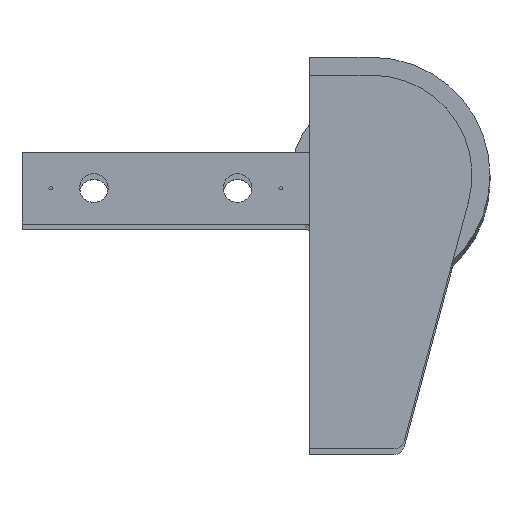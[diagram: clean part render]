
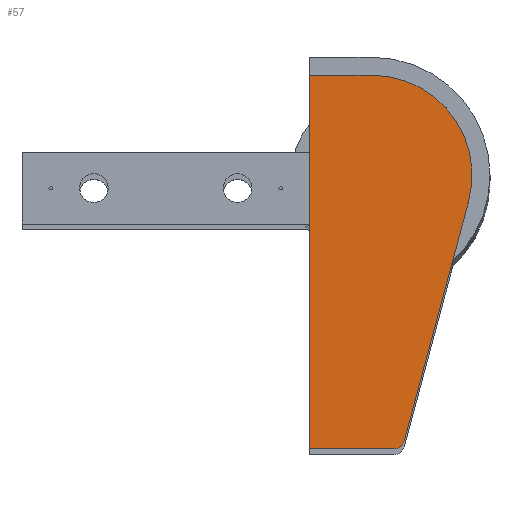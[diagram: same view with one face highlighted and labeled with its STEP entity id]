
A CAD part, top view. The second image highlights one B-rep face of the part: STEP entity #57.
In plain terms, the highlighted planar face has unit normal (0, 0, 1).
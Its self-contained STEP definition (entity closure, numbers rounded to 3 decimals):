
#12 = DIRECTION ( 'NONE',  ( -1., 0., 0. ) ) ;
#41 = AXIS2_PLACEMENT_3D ( 'NONE', #1087, #1297, #412 ) ;
#57 = ADVANCED_FACE ( 'NONE', ( #1265 ), #395, .T. ) ;
#147 = DIRECTION ( 'NONE',  ( 0., -1., 0. ) ) ;
#157 = VERTEX_POINT ( 'NONE', #1656 ) ;
#202 = VECTOR ( 'NONE', #1053, 1000. ) ;
#222 = VERTEX_POINT ( 'NONE', #604 ) ;
#253 = VERTEX_POINT ( 'NONE', #1040 ) ;
#323 = VERTEX_POINT ( 'NONE', #1230 ) ;
#395 = PLANE ( 'NONE',  #41 ) ;
#399 = LINE ( 'NONE', #1030, #1094 ) ;
#405 = CIRCLE ( 'NONE', #639, 27.8 ) ;
#412 = DIRECTION ( 'NONE',  ( 1., 0., 0. ) ) ;
#448 = EDGE_CURVE ( 'NONE', #323, #2255, #630, .T. ) ;
#496 = ORIENTED_EDGE ( 'NONE', *, *, #905, .T. ) ;
#514 = CARTESIAN_POINT ( 'NONE',  ( 3249.7, -46.4, 462.5 ) ) ;
#529 = ORIENTED_EDGE ( 'NONE', *, *, #2131, .T. ) ;
#604 = CARTESIAN_POINT ( 'NONE',  ( 3294.053, -39.995, 462.5 ) ) ;
#630 = LINE ( 'NONE', #1612, #848 ) ;
#639 = AXIS2_PLACEMENT_3D ( 'NONE', #1628, #764, #12 ) ;
#764 = DIRECTION ( 'NONE',  ( 0., 0., 1. ) ) ;
#772 = CARTESIAN_POINT ( 'NONE',  ( 3249.7, -5., 462.5 ) ) ;
#842 = AXIS2_PLACEMENT_3D ( 'NONE', #1363, #2226, #2048 ) ;
#848 = VECTOR ( 'NONE', #2125, 1000. ) ;
#905 = EDGE_CURVE ( 'NONE', #2255, #1654, #2275, .T. ) ;
#913 = EDGE_LOOP ( 'NONE', ( #529, #1162, #496, #1740, #1415, #1158 ) ) ;
#914 = EDGE_CURVE ( 'NONE', #1654, #253, #399, .T. ) ;
#947 = EDGE_CURVE ( 'NONE', #157, #222, #2081, .T. ) ;
#1030 = CARTESIAN_POINT ( 'NONE',  ( 3249.7, -109., 462.5 ) ) ;
#1040 = CARTESIAN_POINT ( 'NONE',  ( 3273.261, -109., 462.5 ) ) ;
#1053 = DIRECTION ( 'NONE',  ( 0.259, 0.966, 0. ) ) ;
#1087 = CARTESIAN_POINT ( 'NONE',  ( 3273.261, -106., 462.5 ) ) ;
#1094 = VECTOR ( 'NONE', #1727, 1000. ) ;
#1158 = ORIENTED_EDGE ( 'NONE', *, *, #947, .T. ) ;
#1162 = ORIENTED_EDGE ( 'NONE', *, *, #448, .T. ) ;
#1195 = EDGE_CURVE ( 'NONE', #253, #157, #1721, .T. ) ;
#1230 = CARTESIAN_POINT ( 'NONE',  ( 3267.2, -5., 462.5 ) ) ;
#1265 = FACE_OUTER_BOUND ( 'NONE', #913, .T. ) ;
#1297 = DIRECTION ( 'NONE',  ( 0., 0., 1. ) ) ;
#1363 = CARTESIAN_POINT ( 'NONE',  ( 3273.261, -106., 462.5 ) ) ;
#1415 = ORIENTED_EDGE ( 'NONE', *, *, #1195, .T. ) ;
#1467 = CARTESIAN_POINT ( 'NONE',  ( 3249.7, -109., 462.5 ) ) ;
#1577 = CARTESIAN_POINT ( 'NONE',  ( 3276.159, -106.776, 462.5 ) ) ;
#1612 = CARTESIAN_POINT ( 'NONE',  ( 3273.261, -5., 462.5 ) ) ;
#1628 = CARTESIAN_POINT ( 'NONE',  ( 3267.2, -32.8, 462.5 ) ) ;
#1654 = VERTEX_POINT ( 'NONE', #1467 ) ;
#1656 = CARTESIAN_POINT ( 'NONE',  ( 3276.159, -106.776, 462.5 ) ) ;
#1721 = CIRCLE ( 'NONE', #842, 3. ) ;
#1727 = DIRECTION ( 'NONE',  ( 1., 0., 0. ) ) ;
#1740 = ORIENTED_EDGE ( 'NONE', *, *, #914, .T. ) ;
#1808 = VECTOR ( 'NONE', #147, 1000. ) ;
#2048 = DIRECTION ( 'NONE',  ( -1., 0., 0. ) ) ;
#2081 = LINE ( 'NONE', #1577, #202 ) ;
#2125 = DIRECTION ( 'NONE',  ( -1., 0., 0. ) ) ;
#2131 = EDGE_CURVE ( 'NONE', #222, #323, #405, .T. ) ;
#2226 = DIRECTION ( 'NONE',  ( 0., 0., 1. ) ) ;
#2255 = VERTEX_POINT ( 'NONE', #772 ) ;
#2275 = LINE ( 'NONE', #514, #1808 ) ;
